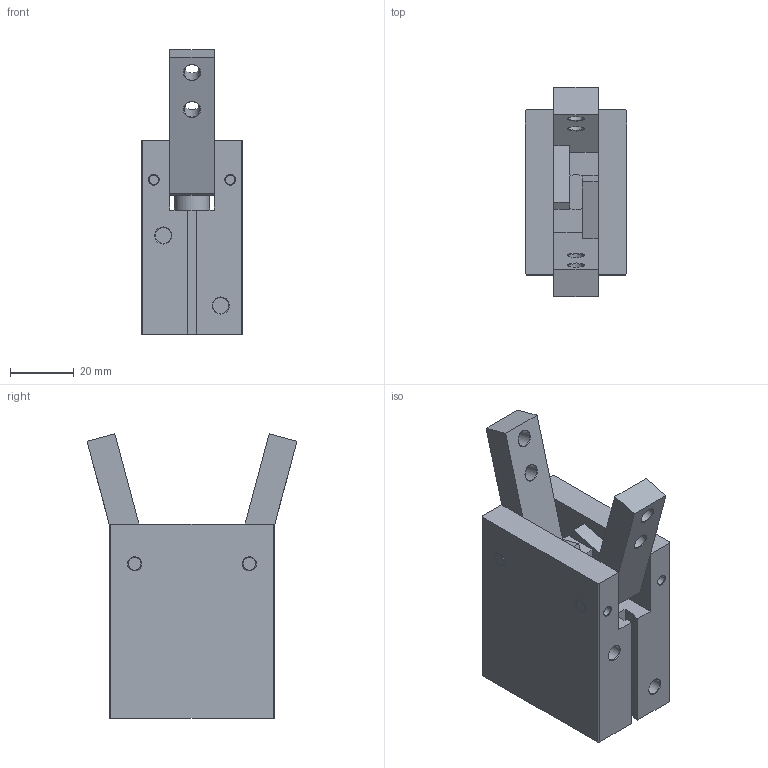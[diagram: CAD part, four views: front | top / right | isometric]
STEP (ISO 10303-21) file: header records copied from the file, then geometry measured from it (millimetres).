
FILE_DESCRIPTION(/* description */ (''),/* implementation_level */ '2;1');
FILE_NAME(/* name */ 'J:\_TEMP - INPUT - Daten Austausch\CADs\stp Dateien für homepage\GR04.123-25.stp',/* time_stamp */ '2016-11-11T10:29:05+01:00',/* author */ ('DFloßmann'),/* organization */ (''),/* preprocessor_version */ 'ST-DEVELOPER v16.5',/* originating_system */ 'Autodesk Inventor 2017',/* authorisation */ '');
FILE_SCHEMA (('AUTOMOTIVE_DESIGN { 1 0 10303 214 3 1 1 }'));
Length unit declared in the file: millimetre
Products named in the file (1): BC_GR04.123-25
Bounding box: 32 x 65.95 x 89.33 mm (x, y, z)
Volume: 94572.4 mm3; surface area: 23640.9 mm2
Topology: 3 solids, 3 shells, 126 faces, 296 edges, 184 vertices
Faces by surface type: plane 78, cylinder 24, cone 20, torus 4
Full cylindrical faces by diameter (mm): 3 x4, 4.4 x2, 4.5 x2, 5 x10, 6 x4, 11 x1, 26 x1
Entity records: 3381 total; most frequent: DIRECTION 576, CARTESIAN_POINT 557, ORIENTED_EDGE 494, EDGE_CURVE 247, EDGE_LOOP 202, AXIS2_PLACEMENT_3D 202, VERTEX_POINT 183, LINE 172
